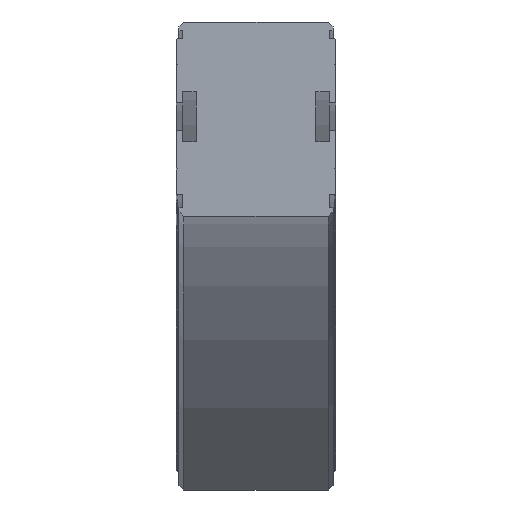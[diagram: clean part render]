
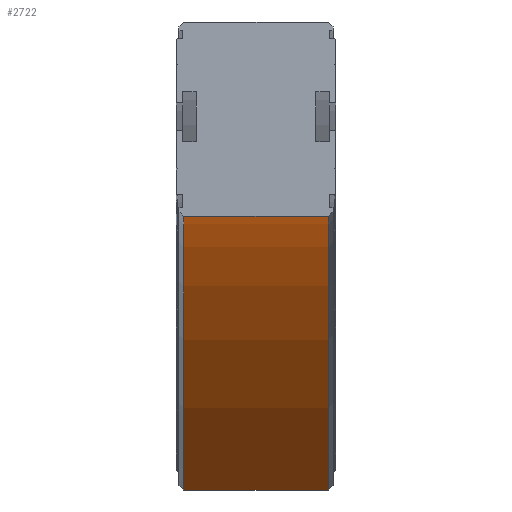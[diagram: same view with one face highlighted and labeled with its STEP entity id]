
A CAD part, left-side view. The second image highlights one B-rep face of the part: STEP entity #2722.
In plain terms, the highlighted cylindrical face has radius 820 mm (diameter 1640 mm), a partial arc.
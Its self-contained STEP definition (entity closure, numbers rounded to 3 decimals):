
#2664=CARTESIAN_POINT('',(410.,29.,-187.859));
#2665=VERTEX_POINT('',#2664);
#2672=CARTESIAN_POINT('',(0.0,29.,-78.));
#2673=VERTEX_POINT('',#2672);
#2674=CARTESIAN_POINT('',(0.0,29.,-898.0));
#2675=DIRECTION('',(0.0,1.0,0.0));
#2676=DIRECTION('',(0.0,0.0,1.0));
#2677=AXIS2_PLACEMENT_3D('',#2674,#2675,#2676);
#2678=CIRCLE('',#2677,820.);
#2679=EDGE_CURVE('',#2673,#2665,#2678,.T.);
#2691=CARTESIAN_POINT('',(0.0,0.,-898.0));
#2692=DIRECTION('',(0.0,1.0,0.0));
#2693=DIRECTION('',(0.0,0.0,1.0));
#2694=AXIS2_PLACEMENT_3D('',#2691,#2692,#2693);
#2695=CYLINDRICAL_SURFACE('',#2694,820.);
#2696=CARTESIAN_POINT('',(410.,-29.,-187.859));
#2697=VERTEX_POINT('',#2696);
#2698=CARTESIAN_POINT('',(410.,29.,-187.859));
#2699=DIRECTION('',(0.0,-1.0,0.0));
#2700=VECTOR('',#2699,58.);
#2701=LINE('',#2698,#2700);
#2702=EDGE_CURVE('',#2665,#2697,#2701,.T.);
#2703=ORIENTED_EDGE('',*,*,#2702,.T.);
#2704=CARTESIAN_POINT('',(0.0,-29.,-78.));
#2705=VERTEX_POINT('',#2704);
#2706=CARTESIAN_POINT('',(0.0,-29.,-898.0));
#2707=DIRECTION('',(0.0,1.0,0.0));
#2708=DIRECTION('',(0.0,0.0,1.0));
#2709=AXIS2_PLACEMENT_3D('',#2706,#2707,#2708);
#2710=CIRCLE('',#2709,820.);
#2711=EDGE_CURVE('',#2705,#2697,#2710,.T.);
#2712=ORIENTED_EDGE('',*,*,#2711,.F.);
#2713=CARTESIAN_POINT('',(0.0,-29.,-78.));
#2714=DIRECTION('',(0.0,1.0,0.0));
#2715=VECTOR('',#2714,58.);
#2716=LINE('',#2713,#2715);
#2717=EDGE_CURVE('',#2705,#2673,#2716,.T.);
#2718=ORIENTED_EDGE('',*,*,#2717,.T.);
#2719=ORIENTED_EDGE('',*,*,#2679,.T.);
#2720=EDGE_LOOP('',(#2703,#2712,#2718,#2719));
#2721=FACE_OUTER_BOUND('',#2720,.T.);
#2722=ADVANCED_FACE('',(#2721),#2695,.F.);
